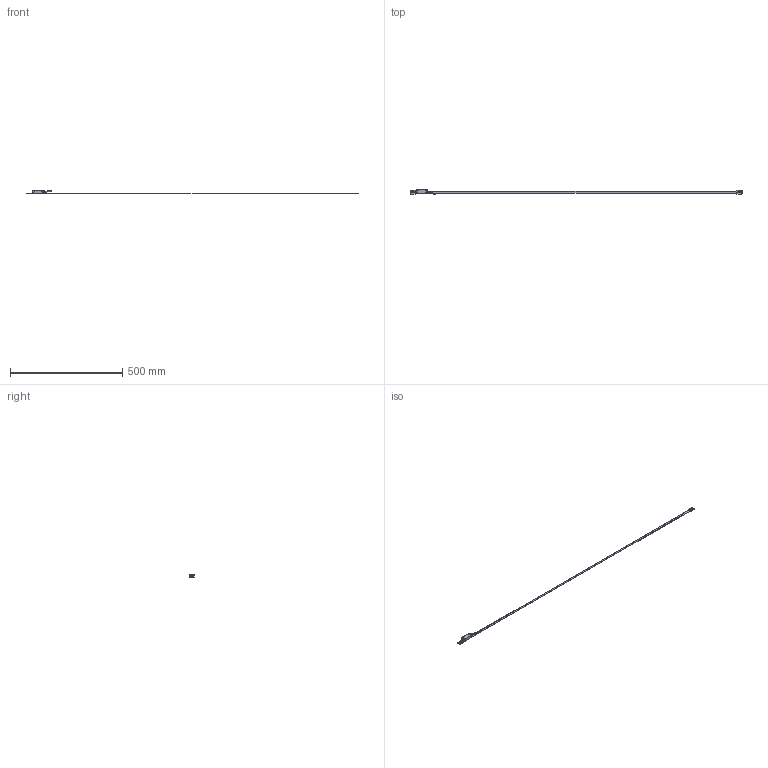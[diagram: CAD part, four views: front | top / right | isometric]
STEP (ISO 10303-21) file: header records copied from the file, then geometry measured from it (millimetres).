
FILE_DESCRIPTION(('Creo Elements/Direct Modeling STEP Export'),'2;1');
FILE_NAME('EXAA-1370.stp','2017-01-11T17:34:52',(''),(''),'Creo Elements/Direct Modeling STEP processor for AP214 (Solid Model)','Creo Elements/Direct Modeling 18.1H 24-Oct-2015 (C) Parametric Technology GmbH','');
FILE_SCHEMA(('AUTOMOTIVE_DESIGN { 1 0 10303 214 1 1 1 1 }'));
Length unit declared in the file: millimetre
Products named in the file (7): CABEZA_EXPOSED; FLEJE_REGLA_EXPOSED_1370; TOPE_FLEJE_PEGADO.1; TOPE_FLEJE_PEGADO
Assembly tree (4 placements, depth 2):
  CABEZA_EXPOSED
    CABEZA_EXPOSED
  FLEJE_REGLA_EXPOSED_1370
    FLEJE_REGLA_EXPOSED_1370
  TOPE_FLEJE_PEGADO
    TOPE_FLEJE_PEGADO.1
  TOPE_FLEJE_PEGADO.1
    TOPE_FLEJE_PEGADO.1
Bounding box: 1476 x 20.7 x 13.1 mm (x, y, z)
Volume: 18023 mm3; surface area: 37007.3 mm2
Topology: 4 solids, 10 shells, 929 faces, 2589 edges, 1700 vertices
Faces by surface type: plane 741, cylinder 130, cone 46, torus 12
Entity records: 18785 total; most frequent: CARTESIAN_POINT 3390, ORIENTED_EDGE 3200, DIRECTION 2779, EDGE_CURVE 1600, VECTOR 1279, LINE 1279, VERTEX_POINT 1046, AXIS2_PLACEMENT_3D 750
